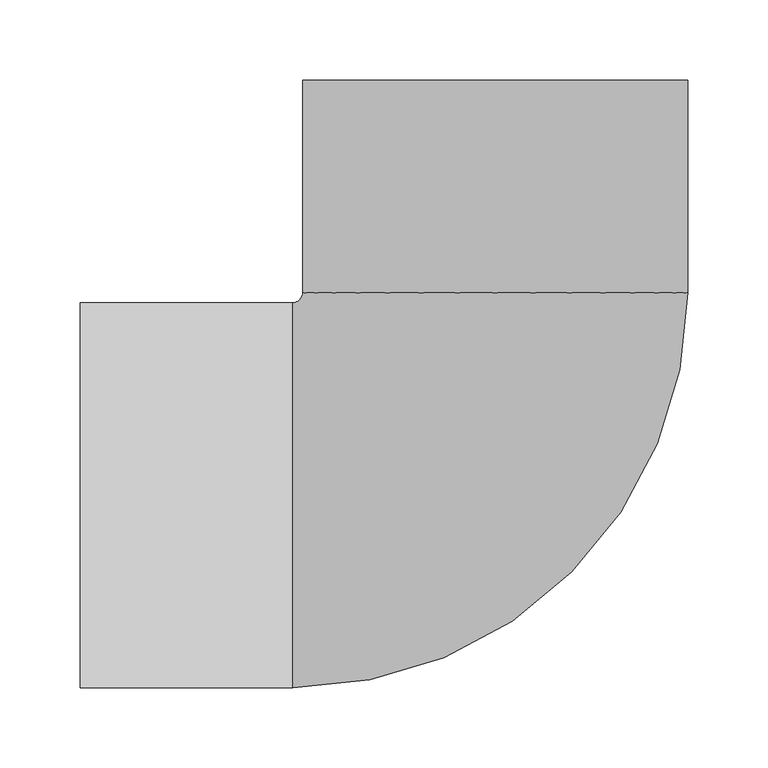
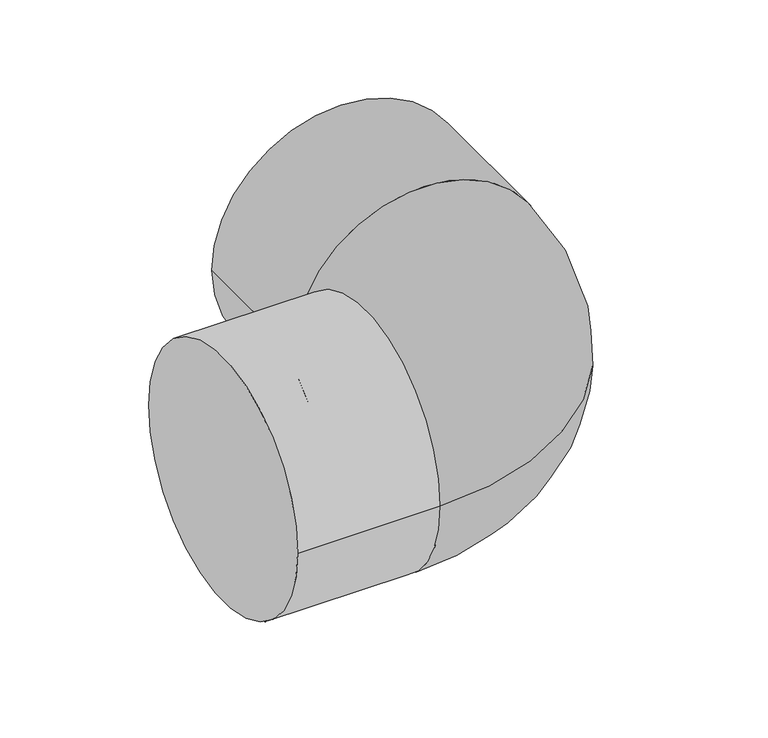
"""IFC4 building model written with IfcOpenShell, lengths in millimetres: pipe fitting geometry, 01051001 : Codos 90º."""

from ifc_helpers import new_model, si_unit, point, frame, origin, place, context, project, spatial, circle_curve, ellipse_curve, trimmed, source, transform, mapped, element, save
from ifc_brep_helpers import plane_surface, cylinder_surface, revolved_surface, advanced_brep


def pipe_fitting_c0c14381(model_context):
    return source(origin(), model_context, "Body", "AdvancedBrep", [
        advanced_brep(
        [(-126.0, -119.7, 0.0), (119.7, 126.0, 0.0), (-119.7, 126.0, 0.0), (-126.0, 119.7, 0.0), (-119.7, 258.0, 0.0), (119.7, 258.0, 0.0), (-258.0, 119.7, 0.0), (-258.0, -119.7, 0.0)],
        [
            (0, 1, circle_curve(frame((-126.0, 126.0, 0.0), z_axis=(0.0, 0.0, 1.0), x_axis=(1.0, 0.0, 0.0)), 245.7)),
            (1, 2, circle_curve(frame((0.0, 126.0, 0.0), z_axis=(0.0, -1.0, 0.0), x_axis=(1.0, 0.0, 0.0)), 119.7)),
            (2, 3, circle_curve(frame((-126.0, 126.0, 0.0), z_axis=(0.0, 0.0, -1.0), x_axis=(1.0, 0.0, 0.0)), 6.3)),
            (3, 0, circle_curve(frame((-126.0, 0.0, 0.0), z_axis=(1.0, 0.0, 0.0), x_axis=(0.0, -1.0, 0.0)), 119.7)),
            (2, 1, circle_curve(frame((0.0, 126.0, 0.0), z_axis=(0.0, -1.0, 0.0), x_axis=(1.0, 0.0, 0.0)), 119.7)),
            (0, 3, circle_curve(frame((-126.0, 0.0, 0.0), z_axis=(1.0, 0.0, 0.0), x_axis=(0.0, -1.0, 0.0)), 119.7)),
            (4, 5, circle_curve(frame((0.0, 258.0, 0.0), z_axis=(0.0, 1.0, 0.0), x_axis=(1.0, 0.0, 0.0)), 119.7)),
            (5, 4, circle_curve(frame((0.0, 258.0, 0.0), z_axis=(0.0, 1.0, 0.0), x_axis=(1.0, 0.0, 0.0)), 119.7)),
            (4, 2),
            (1, 5),
            (6, 7, circle_curve(frame((-258.0, 0.0, 0.0), z_axis=(-1.0, 0.0, 0.0), x_axis=(0.0, -1.0, 0.0)), 119.7)),
            (7, 6, circle_curve(frame((-258.0, 0.0, 0.0), z_axis=(-1.0, 0.0, 0.0), x_axis=(0.0, -1.0, 0.0)), 119.7)),
            (3, 6),
            (7, 0),
        ],
        [
            revolved_surface(trimmed(ellipse_curve(frame((0.0, 126.0, 0.0), z_axis=(0.0, 1.0, 0.0), x_axis=(1.0, 0.0, 0.0)), 119.7, 119.7), [point((-119.7, 126.0, 0.0))], [point((119.7, 126.0, 0.0))], True, "CARTESIAN"), (-126.0, 126.0, 0.0), (0.0, 0.0, -1.0)),
            revolved_surface(trimmed(ellipse_curve(frame((0.0, 126.0, 0.0), z_axis=(0.0, 1.0, 0.0), x_axis=(1.0, 0.0, 0.0)), 119.7, 119.7), [point((119.7, 126.0, 0.0))], [point((-119.7, 126.0, 0.0))], True, "CARTESIAN"), (-126.0, 126.0, 0.0), (0.0, 0.0, -1.0)),
            plane_surface(frame((0.0, 258.0, 0.0), z_axis=(0.0, 1.0, 0.0), x_axis=(0.0, 0.0, 1.0))),
            cylinder_surface(frame((0.0, 258.0, 0.0), z_axis=(0.0, 1.0, 0.0), x_axis=(1.0, 0.0, 0.0)), 119.7),
            plane_surface(frame((-258.0, 0.0, 0.0), z_axis=(-1.0, 0.0, 0.0), x_axis=(0.0, 0.0, 1.0))),
            cylinder_surface(frame((-126.0, 0.0, 0.0), z_axis=(1.0, 0.0, 0.0), x_axis=(0.0, -1.0, 0.0)), 119.7),
        ],
        [
            (0, [[1, 2, 3, 4]]),
            (1, [[-3, 5, -1, 6]]),
            (2, [[7, 8]]),
            (3, [[-7, 9, -2, 10]]),
            (3, [[-8, -10, -5, -9]]),
            (4, [[11, 12]]),
            (5, [[-4, 13, -12, 14]]),
            (5, [[-6, -14, -11, -13]]),
        ],
    ),
    ])


if __name__ == "__main__":
    model = new_model("IFC4")
    model_context = context("Model", 3, world=origin())
    ifc_project = project(units=[si_unit("LENGTHUNIT", "METRE", prefix="MILLI")], contexts=[model_context])
    site = spatial("IfcSite", under=ifc_project)
    building = spatial("IfcBuilding", under=site)
    placement = place(None, origin())
    pipe_fitting_shape = pipe_fitting_c0c14381(model_context)
    element("IfcPipeFitting", 1, ObjectType="01051001 : Codos 90º", at=placement, inside=building, context=model_context, shape_type="MappedRepresentation", body=[
        mapped(pipe_fitting_shape, transform((0.0, 0.0, 0.0), x_axis=(1.0, 0.0, 0.0), y_axis=(0.0, 1.0, 0.0), z_axis=(0.0, 0.0, 1.0))),
    ])
    save(model, "model.ifc")
